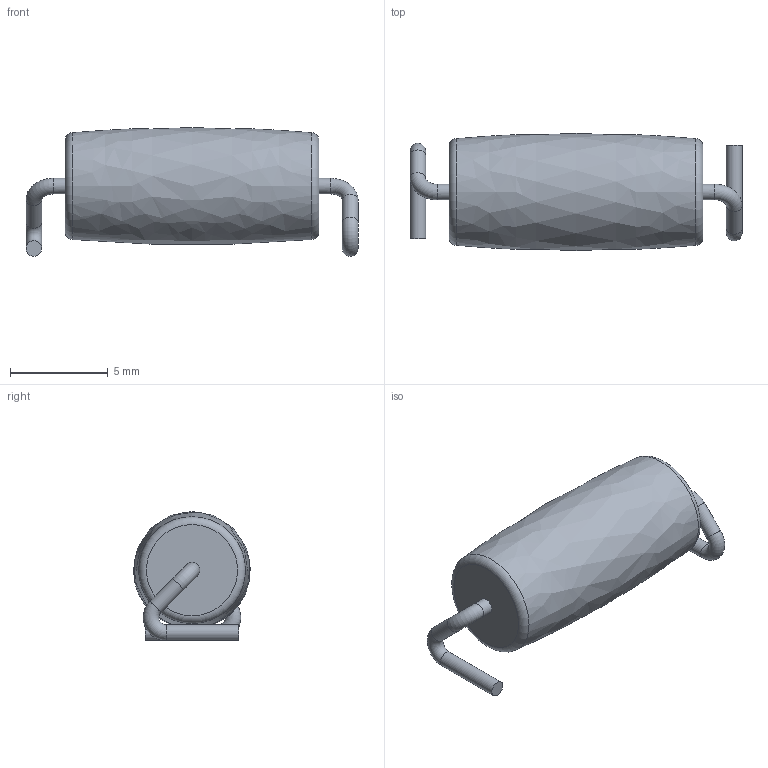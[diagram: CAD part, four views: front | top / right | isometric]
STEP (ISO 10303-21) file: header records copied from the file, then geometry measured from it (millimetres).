
FILE_DESCRIPTION(/* description */ (''),/* implementation_level */ '2;1');
FILE_NAME(/* name */ 'AC0300090XXXXJBM00 (003).stp',/* time_stamp */ '2025-02-06T15:13:53+05:30',/* author */ ('rkulkarni4'),/* organization */ (''),/* preprocessor_version */ 'ST-DEVELOPER v20',/* originating_system */ 'Autodesk Inventor 2025',/* authorisation */ '');
FILE_SCHEMA (('AUTOMOTIVE_DESIGN { 1 0 10303 214 3 1 1 }'));
Length unit declared in the file: millimetre
Products named in the file (1): AC0300090XXXXJBM00 (003)
Bounding box: 17 x 6 x 6.6 mm (x, y, z)
Volume: 352.2 mm3; surface area: 325.2 mm2
Topology: 1 solids, 1 shells, 17 faces, 36 edges, 23 vertices
Faces by surface type: torus 6, cylinder 6, plane 4, bspline 1
Full cylindrical faces by diameter (mm): 0.8 x6
Entity records: 560 total; most frequent: CARTESIAN_POINT 103, DIRECTION 100, ORIENTED_EDGE 72, AXIS2_PLACEMENT_3D 47, EDGE_CURVE 36, CIRCLE 30, VERTEX_POINT 23, EDGE_LOOP 19
